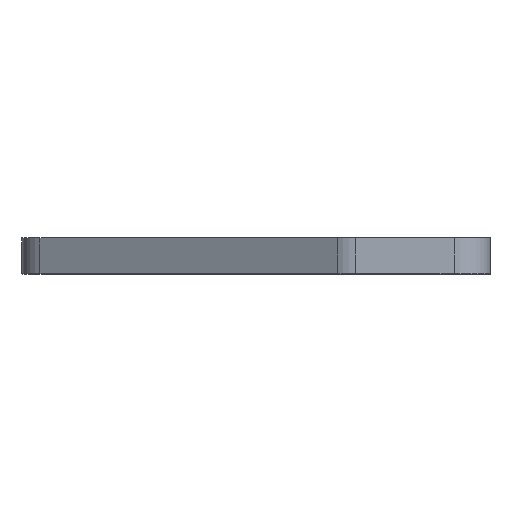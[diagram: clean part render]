
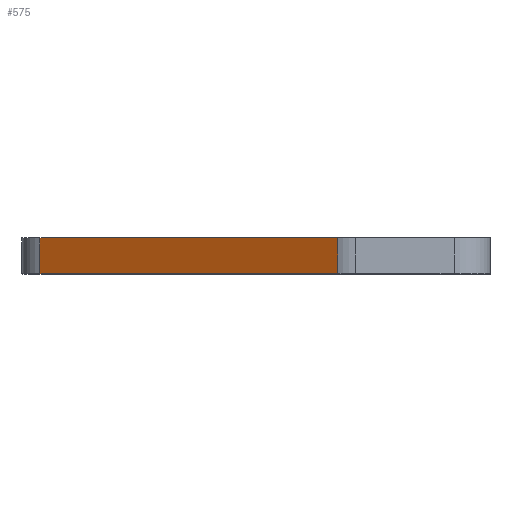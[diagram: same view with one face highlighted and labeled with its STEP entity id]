
A CAD part, top view. The second image highlights one B-rep face of the part: STEP entity #575.
In plain terms, the highlighted planar face has unit normal (-0.5, 0, 0.866).
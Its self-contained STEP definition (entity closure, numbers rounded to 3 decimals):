
#58 = DIRECTION ( 'NONE',  ( 0.5, 0., -0.866 ) ) ;
#66 = CARTESIAN_POINT ( 'NONE',  ( 10.036, 2., 14.732 ) ) ;
#80 = VECTOR ( 'NONE', #704, 1000. ) ;
#93 = AXIS2_PLACEMENT_3D ( 'NONE', #805, #58, #351 ) ;
#111 = DIRECTION ( 'NONE',  ( 0.866, 0., 0.5 ) ) ;
#118 = LINE ( 'NONE', #801, #293 ) ;
#125 = LINE ( 'NONE', #622, #80 ) ;
#190 = EDGE_CURVE ( 'NONE', #551, #198, #745, .T. ) ;
#194 = VERTEX_POINT ( 'NONE', #363 ) ;
#198 = VERTEX_POINT ( 'NONE', #962 ) ;
#202 = VERTEX_POINT ( 'NONE', #212 ) ;
#212 = CARTESIAN_POINT ( 'NONE',  ( -6.5, 0., 5.185 ) ) ;
#228 = LINE ( 'NONE', #749, #519 ) ;
#293 = VECTOR ( 'NONE', #111, 1000. ) ;
#351 = DIRECTION ( 'NONE',  ( -0.866, 0., -0.5 ) ) ;
#357 = CARTESIAN_POINT ( 'NONE',  ( 10.036, 2., 14.732 ) ) ;
#363 = CARTESIAN_POINT ( 'NONE',  ( -6.5, 2., 5.185 ) ) ;
#414 = ORIENTED_EDGE ( 'NONE', *, *, #485, .T. ) ;
#419 = ORIENTED_EDGE ( 'NONE', *, *, #825, .T. ) ;
#438 = PLANE ( 'NONE',  #93 ) ;
#460 = EDGE_LOOP ( 'NONE', ( #414, #923, #779, #419 ) ) ;
#485 = EDGE_CURVE ( 'NONE', #202, #198, #118, .T. ) ;
#519 = VECTOR ( 'NONE', #525, 1000. ) ;
#525 = DIRECTION ( 'NONE',  ( 0.866, 0., 0.5 ) ) ;
#551 = VERTEX_POINT ( 'NONE', #357 ) ;
#575 = ADVANCED_FACE ( 'NONE', ( #592 ), #438, .F. ) ;
#592 = FACE_OUTER_BOUND ( 'NONE', #460, .T. ) ;
#622 = CARTESIAN_POINT ( 'NONE',  ( -6.5, 2., 5.185 ) ) ;
#704 = DIRECTION ( 'NONE',  ( 0., -1., 0. ) ) ;
#705 = EDGE_CURVE ( 'NONE', #194, #551, #228, .T. ) ;
#741 = DIRECTION ( 'NONE',  ( 0., -1., 0. ) ) ;
#745 = LINE ( 'NONE', #66, #839 ) ;
#749 = CARTESIAN_POINT ( 'NONE',  ( 10.036, 2., 14.732 ) ) ;
#779 = ORIENTED_EDGE ( 'NONE', *, *, #705, .F. ) ;
#801 = CARTESIAN_POINT ( 'NONE',  ( 10.036, 0., 14.732 ) ) ;
#805 = CARTESIAN_POINT ( 'NONE',  ( 10.036, 2., 14.732 ) ) ;
#825 = EDGE_CURVE ( 'NONE', #194, #202, #125, .T. ) ;
#839 = VECTOR ( 'NONE', #741, 1000. ) ;
#923 = ORIENTED_EDGE ( 'NONE', *, *, #190, .F. ) ;
#962 = CARTESIAN_POINT ( 'NONE',  ( 10.036, 0., 14.732 ) ) ;
